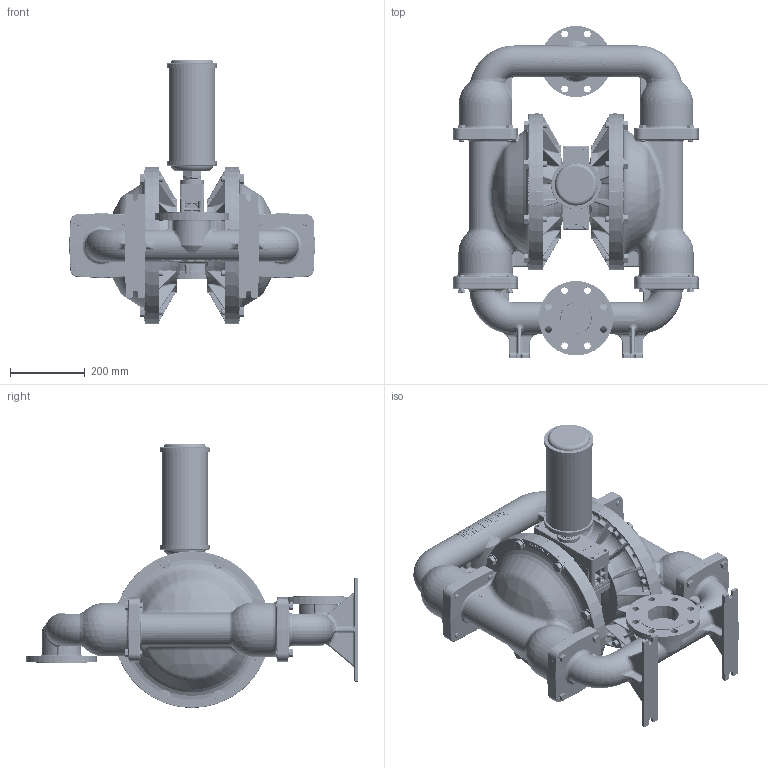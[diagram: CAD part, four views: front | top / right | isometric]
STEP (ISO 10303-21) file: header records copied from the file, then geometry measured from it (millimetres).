
FILE_DESCRIPTION (( 'STEP AP203' ), '1' );
FILE_NAME ('PS1530_ADV_SS_DIN 1.STEP', '2022-07-04T14:50:10', ( '' ), ( '' ), 'SwSTEP 2.0', 'SolidWorks 2019', '' );
FILE_SCHEMA (( 'CONFIG_CONTROL_DESIGN' ));
Length unit declared in the file: inch
Products named in the file (1): PS1530_ADV_SS_DIN 1
Bounding box: 659.94 x 890.9 x 710.18 mm (x, y, z)
Volume: 55121541.9 mm3; surface area: 2364117.3 mm2
Topology: 1 solids, 1 shells, 10011 faces, 24413 edges, 14677 vertices
Faces by surface type: plane 3965, bspline 2652, cylinder 1177, torus 974, cone 731, sphere 512
Entity records: 673174 total; most frequent: CARTESIAN_POINT 460860, ORIENTED_EDGE 48742, DIRECTION 38287, EDGE_CURVE 24371, VERTEX_POINT 14669, AXIS2_PLACEMENT_3D 14549, EDGE_LOOP 10394, FACE_OUTER_BOUND 10011
